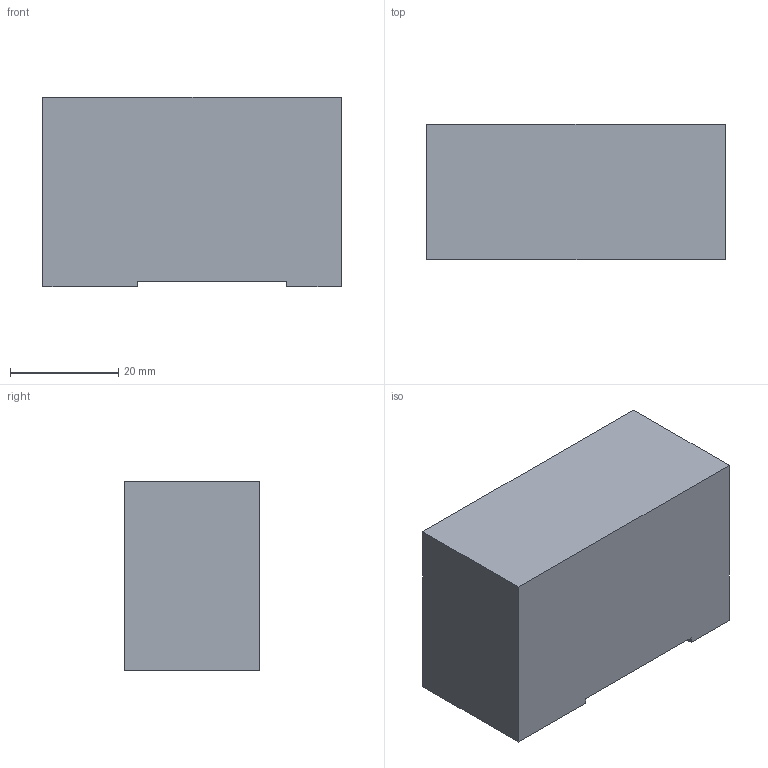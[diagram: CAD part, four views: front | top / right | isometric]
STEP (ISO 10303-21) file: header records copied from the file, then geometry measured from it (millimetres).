
FILE_DESCRIPTION(('FreeCAD Model'),'2;1');
FILE_NAME('Open CASCADE Shape Model','2024-09-21T16:45:47',('Author'),( ''),'Open CASCADE STEP processor 7.6','FreeCAD','Unknown');
FILE_SCHEMA(('AUTOMOTIVE_DESIGN { 1 0 10303 214 1 1 1 1 }'));
Length unit declared in the file: millimetre
Products named in the file (1): Тело
Bounding box: 55 x 25 x 35 mm (x, y, z)
Volume: 47198.4 mm3; surface area: 8884.9 mm2
Topology: 1 solids, 1 shells, 354 faces, 732 edges, 380 vertices
Faces by surface type: bspline 252, cylinder 84, plane 14, cone 4
Full cylindrical faces by diameter (mm): 2.52 x80
Entity records: 35006 total; most frequent: CARTESIAN_POINT 29687, ORIENTED_EDGE 1456, EDGE_CURVE 728, B_SPLINE_CURVE_WITH_KNOTS 600, VERTEX_POINT 380, FACE_BOUND 358, EDGE_LOOP 358, ADVANCED_FACE 354
